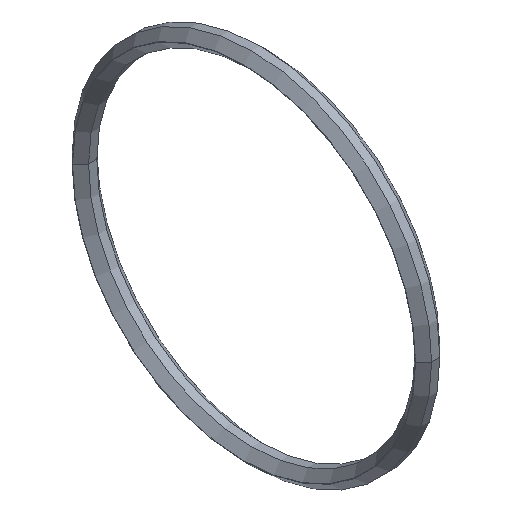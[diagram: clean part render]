
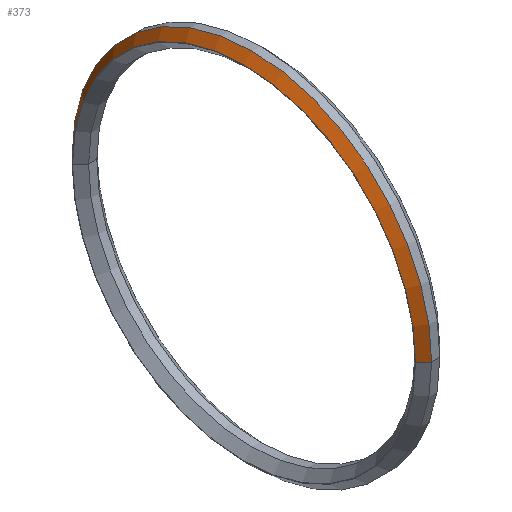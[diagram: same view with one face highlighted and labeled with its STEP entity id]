
A CAD part, isometric view. The second image highlights one B-rep face of the part: STEP entity #373.
In plain terms, the highlighted conical face has half-angle 45 degrees and reference radius 32.05 mm.
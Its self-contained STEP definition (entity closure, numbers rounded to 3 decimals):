
#172=CARTESIAN_POINT('',(-0.75,32.8,0.0));
#173=VERTEX_POINT('',#172);
#182=CARTESIAN_POINT('',(-0.75,-32.8,0.));
#183=VERTEX_POINT('',#182);
#184=CARTESIAN_POINT('',(-0.75,0.0,0.0));
#185=DIRECTION('',(1.0,0.0,0.0));
#186=DIRECTION('',(0.0,1.0,0.0));
#187=AXIS2_PLACEMENT_3D('',#184,#185,#186);
#188=CIRCLE('',#187,32.8);
#189=EDGE_CURVE('',#173,#183,#188,.T.);
#333=CARTESIAN_POINT('',(-1.5,0.0,0.0));
#334=DIRECTION('',(1.0,0.0,0.0));
#335=DIRECTION('',(0.0,1.0,0.0));
#336=AXIS2_PLACEMENT_3D('',#333,#334,#335);
#337=CONICAL_SURFACE('',#336,32.05,45.);
#338=CARTESIAN_POINT('',(-2.215,31.335,0.0));
#339=VERTEX_POINT('',#338);
#340=CARTESIAN_POINT('',(-2.215,31.335,0.0));
#341=DIRECTION('',(0.707,0.707,0.0));
#342=VECTOR('',#341,2.071);
#343=LINE('',#340,#342);
#344=EDGE_CURVE('',#339,#173,#343,.T.);
#345=ORIENTED_EDGE('',*,*,#344,.F.);
#346=CARTESIAN_POINT('',(-2.215,0.,31.335));
#347=VERTEX_POINT('',#346);
#348=CARTESIAN_POINT('',(-2.215,0.0,0.0));
#349=DIRECTION('',(-1.0,0.0,0.0));
#350=DIRECTION('',(0.0,-1.0,0.0));
#351=AXIS2_PLACEMENT_3D('',#348,#349,#350);
#352=CIRCLE('',#351,31.335);
#353=EDGE_CURVE('',#347,#339,#352,.T.);
#354=ORIENTED_EDGE('',*,*,#353,.F.);
#355=CARTESIAN_POINT('',(-2.215,-31.335,0.));
#356=VERTEX_POINT('',#355);
#357=CARTESIAN_POINT('',(-2.215,0.0,0.0));
#358=DIRECTION('',(-1.0,0.0,0.0));
#359=DIRECTION('',(0.0,-1.0,0.0));
#360=AXIS2_PLACEMENT_3D('',#357,#358,#359);
#361=CIRCLE('',#360,31.335);
#362=EDGE_CURVE('',#356,#347,#361,.T.);
#363=ORIENTED_EDGE('',*,*,#362,.F.);
#364=CARTESIAN_POINT('',(-0.75,-32.8,0.));
#365=DIRECTION('',(-0.707,0.707,0.));
#366=VECTOR('',#365,2.071);
#367=LINE('',#364,#366);
#368=EDGE_CURVE('',#183,#356,#367,.T.);
#369=ORIENTED_EDGE('',*,*,#368,.F.);
#370=ORIENTED_EDGE('',*,*,#189,.F.);
#371=EDGE_LOOP('',(#345,#354,#363,#369,#370));
#372=FACE_OUTER_BOUND('',#371,.T.);
#373=ADVANCED_FACE('',(#372),#337,.T.);
